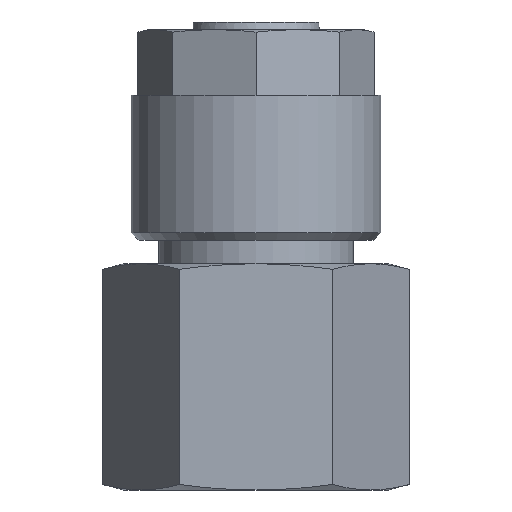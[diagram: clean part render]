
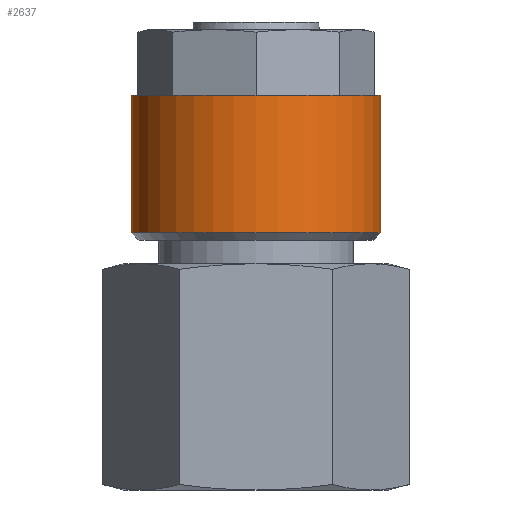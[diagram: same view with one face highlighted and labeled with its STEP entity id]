
A CAD part, front view. The second image highlights one B-rep face of the part: STEP entity #2637.
In plain terms, the highlighted cylindrical face has radius 8 mm (diameter 16 mm), a full revolution.
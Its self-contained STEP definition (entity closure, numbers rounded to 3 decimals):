
#1227=CYLINDRICAL_SURFACE('',#2486,8.);
#1326=ORIENTED_EDGE('',*,*,#1617,.F.);
#1327=ORIENTED_EDGE('',*,*,#1618,.T.);
#1465=CIRCLE('',#2485,8.);
#1466=CIRCLE('',#2487,8.);
#1527=VERTEX_POINT('',#2282);
#1528=VERTEX_POINT('',#2285);
#1617=EDGE_CURVE('',#1527,#1527,#1465,.T.);
#1618=EDGE_CURVE('',#1528,#1528,#1466,.T.);
#1708=EDGE_LOOP('',(#1326));
#1709=EDGE_LOOP('',(#1327));
#1798=FACE_BOUND('',#1708,.T.);
#1799=FACE_BOUND('',#1709,.T.);
#1978=DIRECTION('',(0.,1.,0.));
#1979=DIRECTION('',(0.,0.,-8.));
#1980=DIRECTION('',(0.,1.,0.));
#1981=DIRECTION('',(1.,0.,0.));
#1982=DIRECTION('',(0.,1.,0.));
#1983=DIRECTION('',(0.,0.,8.));
#2282=CARTESIAN_POINT('',(26.989,23.895,-8.));
#2283=CARTESIAN_POINT('',(26.989,23.895,0.));
#2284=CARTESIAN_POINT('',(26.989,15.095,0.));
#2285=CARTESIAN_POINT('',(26.989,15.095,8.));
#2286=CARTESIAN_POINT('',(26.989,15.095,0.));
#2485=AXIS2_PLACEMENT_3D('',#2283,#1978,#1979);
#2486=AXIS2_PLACEMENT_3D('',#2284,#1980,#1981);
#2487=AXIS2_PLACEMENT_3D('',#2286,#1982,#1983);
#2637=ADVANCED_FACE('',(#1798,#1799),#1227,.T.);
